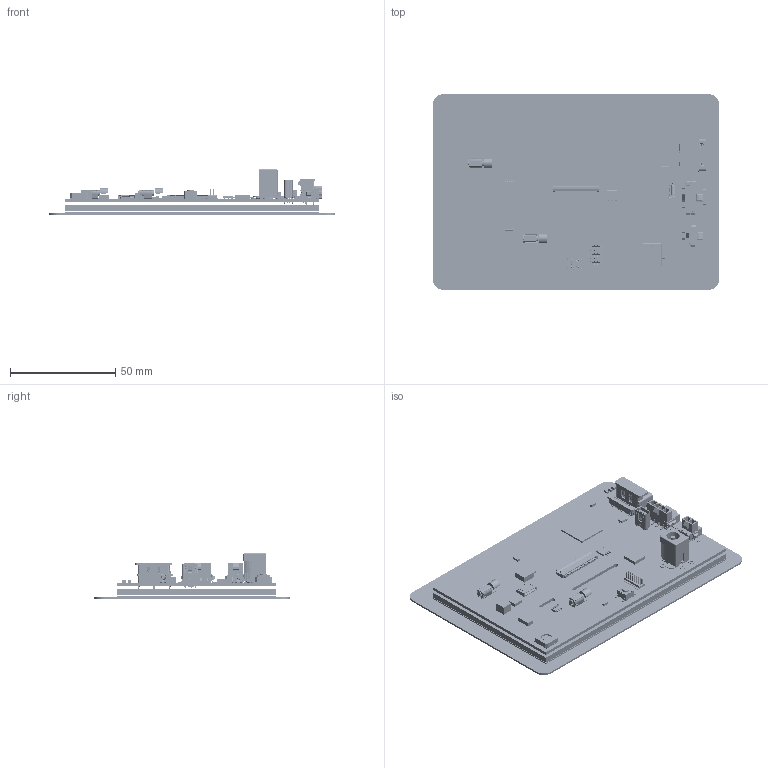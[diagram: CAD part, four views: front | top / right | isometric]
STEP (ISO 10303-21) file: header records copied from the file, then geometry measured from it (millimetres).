
FILE_DESCRIPTION (( 'STEP AP214' ), '1' );
FILE_NAME ('HTT50G R3.0.2.STEP', '2021-08-25T15:40:55', ( '' ), ( '' ), 'SwSTEP 2.0', 'SolidWorks 2018', '' );
FILE_SCHEMA (( 'AUTOMOTIVE_DESIGN' ));
Length unit declared in the file: millimetre
Products named in the file (4): HTT50G R3.0.2; TPN10040; MOPTFT800480-50; HTT50x R3.0.2 Parts_only
Assembly tree (3 placements, depth 2):
  HTT50G R3.0.2
    HTT50x R3.0.2 Parts_only
    MOPTFT800480-50
    TPN10040
Bounding box: 136 x 92.8 x 21.61 mm (x, y, z)
Volume: 41841.3 mm3; surface area: 95913.1 mm2
Topology: 3 solids, 168 shells, 13064 faces, 36461 edges, 23553 vertices
Faces by surface type: plane 9336, cylinder 2392, bspline 1258, cone 38, sphere 30, torus 10
Entity records: 566082 total; most frequent: CARTESIAN_POINT 93934, ORIENTED_EDGE 72796, DIRECTION 61074, EDGE_CURVE 36437, VECTOR 27944, LINE 27944, VERTEX_POINT 23545, AXIS2_PLACEMENT_3D 16565
